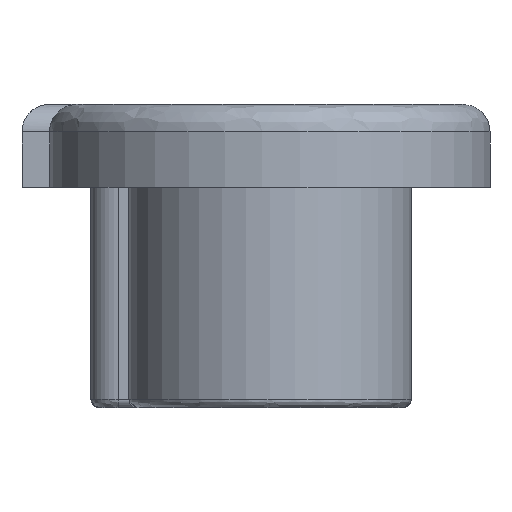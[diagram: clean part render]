
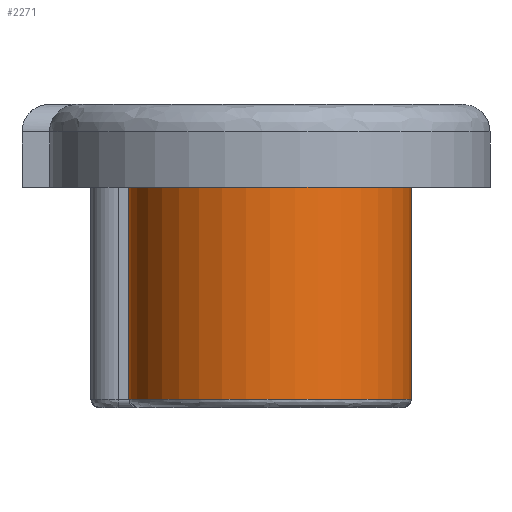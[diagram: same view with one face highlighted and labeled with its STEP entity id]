
A CAD part, left-side view. The second image highlights one B-rep face of the part: STEP entity #2271.
In plain terms, the highlighted cylindrical face has radius 5.125 mm (diameter 10.25 mm), a full revolution.
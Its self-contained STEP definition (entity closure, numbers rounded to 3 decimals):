
#81 = CIRCLE ( 'NONE', #941, 5.125 ) ;
#107 = DIRECTION ( 'NONE',  ( 0., 0., 1. ) ) ;
#143 = CARTESIAN_POINT ( 'NONE',  ( 0., 0., -11. ) ) ;
#482 = CARTESIAN_POINT ( 'NONE',  ( 5.125, 0., -3. ) ) ;
#519 = CARTESIAN_POINT ( 'NONE',  ( 0., 0., -10.7 ) ) ;
#730 = DIRECTION ( 'NONE',  ( 1., 0., 0. ) ) ;
#879 = CARTESIAN_POINT ( 'NONE',  ( 0., 0., -3. ) ) ;
#941 = AXIS2_PLACEMENT_3D ( 'NONE', #519, #2009, #1492 ) ;
#1009 = CYLINDRICAL_SURFACE ( 'NONE', #1795, 5.125 ) ;
#1041 = EDGE_LOOP ( 'NONE', ( #1865 ) ) ;
#1048 = EDGE_CURVE ( 'NONE', #1546, #1546, #2112, .T. ) ;
#1051 = AXIS2_PLACEMENT_3D ( 'NONE', #879, #1606, #730 ) ;
#1077 = EDGE_CURVE ( 'NONE', #1165, #1165, #81, .T. ) ;
#1165 = VERTEX_POINT ( 'NONE', #1193 ) ;
#1176 = FACE_OUTER_BOUND ( 'NONE', #1389, .T. ) ;
#1193 = CARTESIAN_POINT ( 'NONE',  ( 5.125, 0., -10.7 ) ) ;
#1357 = FACE_OUTER_BOUND ( 'NONE', #1041, .T. ) ;
#1389 = EDGE_LOOP ( 'NONE', ( #1555 ) ) ;
#1492 = DIRECTION ( 'NONE',  ( 1., 0., 0. ) ) ;
#1546 = VERTEX_POINT ( 'NONE', #482 ) ;
#1555 = ORIENTED_EDGE ( 'NONE', *, *, #1077, .T. ) ;
#1606 = DIRECTION ( 'NONE',  ( 0., 0., -1. ) ) ;
#1795 = AXIS2_PLACEMENT_3D ( 'NONE', #143, #107, #2266 ) ;
#1865 = ORIENTED_EDGE ( 'NONE', *, *, #1048, .T. ) ;
#2009 = DIRECTION ( 'NONE',  ( 0., 0., 1. ) ) ;
#2112 = CIRCLE ( 'NONE', #1051, 5.125 ) ;
#2266 = DIRECTION ( 'NONE',  ( 1., 0., 0. ) ) ;
#2271 = ADVANCED_FACE ( 'NONE', ( #1357, #1176 ), #1009, .T. ) ;
